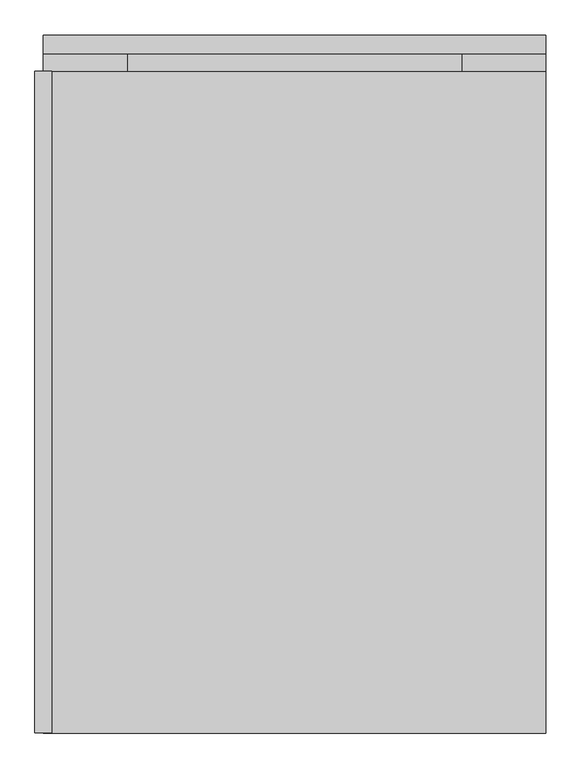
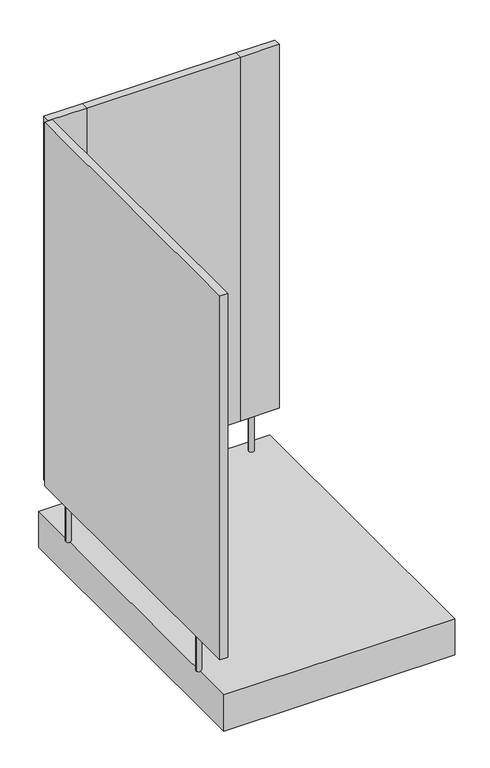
"""IFC4 building model written with IfcOpenShell, lengths in millimetres: proxy geometry, 厕所隔断 1 3D : 中间或靠墙(150 高地台)."""

from ifc_helpers import new_model, si_unit, point, frame, frame_2d, origin, origin_with_axes, place, context, project, spatial, polyline, circle_curve, trimmed, segment, composite_curve, outline, extrude, source, transform, mapped, element, save


def specialty_equipment_664f9cee(model_context):
    return source(origin(), model_context, "Body", "SweptSolid", [
        extrude(outline(polyline([(-790.0, 1285.0), (-760.0, 1285.0), (-760.0, 100.0), (-790.0, 100.0), (-790.0, 1285.0)])), frame((0.0, 0.0, 300.0), z_axis=(0.0, 0.0, 1.0), x_axis=(1.0, 0.0, 0.0)), (0.0, 0.0, 1.0), 1500.0),
        extrude(outline(polyline([(-625.0, 1315.0), (-625.0, 1285.0), (-775.0, 1285.0), (-775.0, 1315.0), (-625.0, 1315.0)])), frame((0.0, 0.0, 300.0), z_axis=(0.0, 0.0, 1.0), x_axis=(1.0, 0.0, 0.0)), (0.0, 0.0, 1.0), 1500.0),
        extrude(outline(polyline([(-25.0, 1285.0), (-25.0, 1315.0), (125.0, 1315.0), (125.0, 1285.0), (-25.0, 1285.0)])), frame((0.0, 0.0, 300.0), z_axis=(0.0, 0.0, 1.0), x_axis=(1.0, 0.0, 0.0)), (0.0, 0.0, 1.0), 1500.0),
        extrude(outline(polyline([(-775.0, 1350.0), (125.0, 1350.0), (125.0, 100.0), (-775.0, 100.0), (-775.0, 1350.0)])), origin_with_axes(), (0.0, 0.0, 1.0), 150.0),
        extrude(outline(composite_curve([segment(trimmed(circle_curve(frame_2d((-676.8349557, 1300.0)), 10.0), [point((-686.8349557, 1300.0))], [point((-666.8349557, 1300.0))], False, "CARTESIAN"), True, "CONTINUOUS"), segment(trimmed(circle_curve(frame_2d((-676.8349557, 1300.0)), 10.0), [point((-666.8349557, 1300.0))], [point((-686.8349557, 1300.0))], False, "CARTESIAN"), True, "CONTINUOUS")], self_intersect=False)), frame((0.0, 0.0, 150.0), z_axis=(0.0, 0.0, 1.0), x_axis=(1.0, 0.0, 0.0)), (0.0, 0.0, 1.0), 150.0),
        extrude(outline(composite_curve([segment(trimmed(circle_curve(frame_2d((25.0, 1300.108943)), 10.0), [point((15.0, 1300.108943))], [point((35.0, 1300.108943))], False, "CARTESIAN"), True, "CONTINUOUS"), segment(trimmed(circle_curve(frame_2d((25.0, 1300.108943)), 10.0), [point((35.0, 1300.108943))], [point((15.0, 1300.108943))], False, "CARTESIAN"), True, "CONTINUOUS")], self_intersect=False)), frame((0.0, 0.0, 150.0), z_axis=(0.0, 0.0, 1.0), x_axis=(1.0, 0.0, 0.0)), (0.0, 0.0, 1.0), 150.0),
        extrude(outline(composite_curve([segment(trimmed(circle_curve(frame_2d((-775.0, 270.108943)), 10.0), [point((-785.0, 270.108943))], [point((-765.0, 270.108943))], False, "CARTESIAN"), True, "CONTINUOUS"), segment(trimmed(circle_curve(frame_2d((-775.0, 270.108943)), 10.0), [point((-765.0, 270.108943))], [point((-785.0, 270.108943))], False, "CARTESIAN"), True, "CONTINUOUS")], self_intersect=False)), frame((0.0, 0.0, 150.0), z_axis=(0.0, 0.0, 1.0), x_axis=(1.0, 0.0, 0.0)), (0.0, 0.0, 1.0), 150.0),
        extrude(outline(composite_curve([segment(trimmed(circle_curve(frame_2d((-775.0, 1150.108943)), 10.0), [point((-785.0, 1150.108943))], [point((-765.0, 1150.108943))], False, "CARTESIAN"), True, "CONTINUOUS"), segment(trimmed(circle_curve(frame_2d((-775.0, 1150.108943)), 10.0), [point((-765.0, 1150.108943))], [point((-785.0, 1150.108943))], False, "CARTESIAN"), True, "CONTINUOUS")], self_intersect=False)), frame((0.0, 0.0, 150.0), z_axis=(0.0, 0.0, 1.0), x_axis=(1.0, 0.0, 0.0)), (0.0, 0.0, 1.0), 150.0),
        extrude(outline(polyline([(-25.0, 1285.0), (-625.0, 1285.0), (-625.0, 1315.0), (-25.0, 1315.0), (-25.0, 1285.0)])), frame((0.0, 0.0, 300.0), z_axis=(0.0, 0.0, 1.0), x_axis=(1.0, 0.0, 0.0)), (0.0, 0.0, 1.0), 1500.0),
    ])


if __name__ == "__main__":
    model = new_model("IFC4")
    model_context = context("Model", 3, world=origin())
    ifc_project = project(units=[si_unit("LENGTHUNIT", "METRE", prefix="MILLI")], contexts=[model_context])
    site = spatial("IfcSite", under=ifc_project)
    building = spatial("IfcBuilding", under=site)
    placement = place(None, origin())
    specialty_equipment_shape = specialty_equipment_664f9cee(model_context)
    element("IfcBuildingElementProxy", 1, Name="厕所隔断 1 3D : 中间或靠墙(150 高地台)", ObjectType="厕所隔断 1 3D : 中间或靠墙(150 高地台)", at=placement, inside=building, context=model_context, shape_type="MappedRepresentation", body=[
        mapped(specialty_equipment_shape, transform((0.0, 0.0, 0.0), x_axis=(1.0, 0.0, 0.0), y_axis=(0.0, 1.0, 0.0), z_axis=(0.0, 0.0, 1.0))),
    ])
    save(model, "model.ifc")
